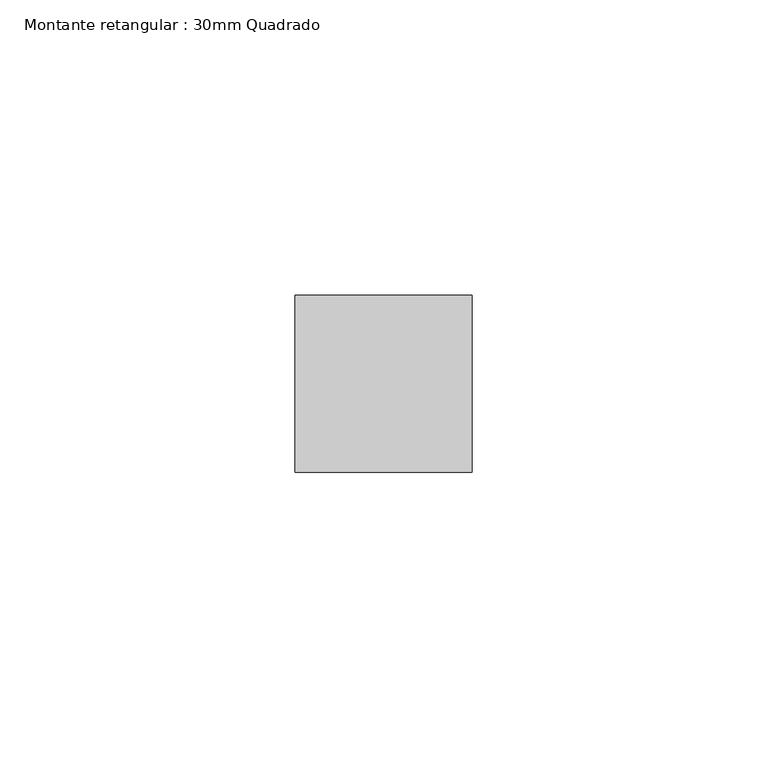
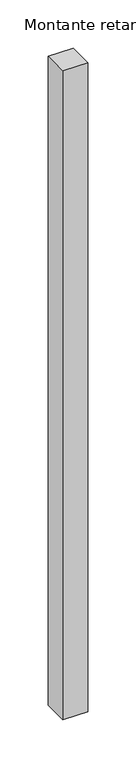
"""IFC4 building model written with IfcOpenShell, lengths in millimetres: member geometry, Montante retangular : 30mm Quadrado."""

from ifc_helpers import new_model, si_unit, frame, origin, place, context, project, spatial, polyline, outline, extrude, source, transform, mapped, element, save


def montante_retangular_30mm_quadrado_ebe63117(model_context):
    return source(origin(), model_context, "Body", "SweptSolid", [
        extrude(outline(polyline([(0.0, 15.0), (0.0, -15.0), (-30.0, -15.0), (-30.0, 15.0), (0.0, 15.0)])), frame((0.0, 0.0, -822.0767196), z_axis=(0.0, 0.0, 1.0), x_axis=(1.0, 0.0, 0.0)), (0.0, 0.0, 1.0), 822.0767196),
    ])


if __name__ == "__main__":
    model = new_model("IFC4")
    model_context = context("Model", 3, world=origin())
    ifc_project = project(units=[si_unit("LENGTHUNIT", "METRE", prefix="MILLI")], contexts=[model_context])
    site = spatial("IfcSite", under=ifc_project)
    building = spatial("IfcBuilding", under=site)
    placement = place(None, origin())
    montante_retangular_30mm_quadrado_shape = montante_retangular_30mm_quadrado_ebe63117(model_context)
    element("IfcMember", 1, ObjectType="Montante retangular : 30mm Quadrado", at=placement, inside=building, context=model_context, shape_type="MappedRepresentation", body=[
        mapped(montante_retangular_30mm_quadrado_shape, transform((0.0, 0.0, 0.0), x_axis=(1.0, 0.0, 0.0), y_axis=(0.0, 1.0, 0.0), z_axis=(0.0, 0.0, 1.0))),
    ])
    save(model, "model.ifc")
